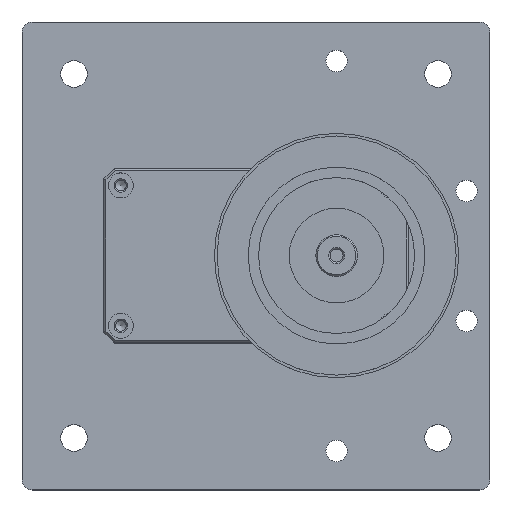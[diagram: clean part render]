
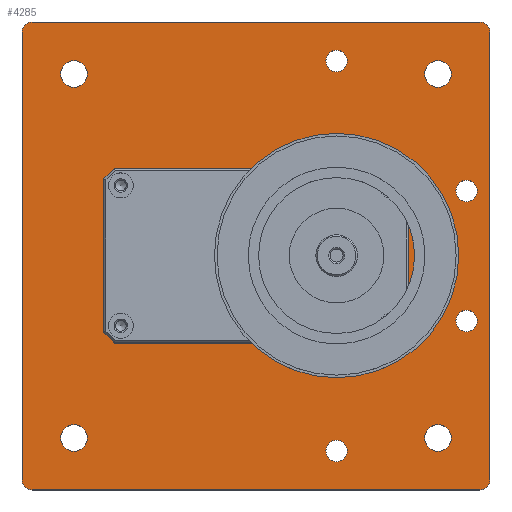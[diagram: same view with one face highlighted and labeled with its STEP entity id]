
A CAD part, top view. The second image highlights one B-rep face of the part: STEP entity #4285.
In plain terms, the highlighted planar face has unit normal (0, 0, 1) as drawn and (0, 0, -1) by its records, which use the part's own axes.
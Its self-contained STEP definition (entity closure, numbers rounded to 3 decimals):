
#108=PLANE('',#4652);
#246=LINE('',#6611,#534);
#250=LINE('',#6623,#538);
#254=LINE('',#6635,#542);
#256=LINE('',#6643,#544);
#260=LINE('',#6700,#548);
#264=LINE('',#6712,#552);
#268=LINE('',#6724,#556);
#272=LINE('',#6735,#560);
#534=VECTOR('',#5196,29.5);
#538=VECTOR('',#5208,28.);
#542=VECTOR('',#5220,29.5);
#544=VECTOR('',#5230,28.);
#548=VECTOR('',#5298,86.);
#552=VECTOR('',#5310,86.);
#556=VECTOR('',#5322,86.);
#560=VECTOR('',#5334,86.);
#838=FACE_BOUND('',#1383,.T.);
#839=FACE_BOUND('',#1384,.T.);
#840=FACE_BOUND('',#1385,.T.);
#841=FACE_BOUND('',#1386,.T.);
#842=FACE_BOUND('',#1387,.T.);
#843=FACE_BOUND('',#1388,.T.);
#844=FACE_BOUND('',#1389,.T.);
#845=FACE_BOUND('',#1390,.T.);
#846=FACE_BOUND('',#1391,.T.);
#847=FACE_BOUND('',#1392,.T.);
#848=FACE_BOUND('',#1393,.T.);
#849=FACE_BOUND('',#1394,.T.);
#850=FACE_BOUND('',#1395,.T.);
#851=FACE_BOUND('',#1396,.T.);
#1383=EDGE_LOOP('',(#3145));
#1384=EDGE_LOOP('',(#3146));
#1385=EDGE_LOOP('',(#3147));
#1386=EDGE_LOOP('',(#3148));
#1387=EDGE_LOOP('',(#3149));
#1388=EDGE_LOOP('',(#3150));
#1389=EDGE_LOOP('',(#3151));
#1390=EDGE_LOOP('',(#3152));
#1391=EDGE_LOOP('',(#3153,#3154,#3155,#3156,#3157,#3158,#3159,#3160));
#1392=EDGE_LOOP('',(#3161));
#1393=EDGE_LOOP('',(#3162));
#1394=EDGE_LOOP('',(#3163));
#1395=EDGE_LOOP('',(#3164));
#1396=EDGE_LOOP('',(#3165,#3166,#3167,#3168,#3169,#3170,#3171,#3172));
#1837=CIRCLE('',#4570,2.05);
#1839=CIRCLE('',#4573,2.05);
#1841=CIRCLE('',#4576,2.05);
#1843=CIRCLE('',#4579,2.05);
#1845=CIRCLE('',#4582,2.55);
#1847=CIRCLE('',#4585,2.55);
#1849=CIRCLE('',#4588,2.55);
#1851=CIRCLE('',#4591,2.55);
#1853=CIRCLE('',#4594,2.);
#1855=CIRCLE('',#4598,2.);
#1857=CIRCLE('',#4602,2.);
#1859=CIRCLE('',#4606,2.);
#1863=CIRCLE('',#4614,1.3);
#1867=CIRCLE('',#4621,1.3);
#1871=CIRCLE('',#4628,1.3);
#1875=CIRCLE('',#4635,1.3);
#1876=CIRCLE('',#4637,2.);
#1878=CIRCLE('',#4641,2.);
#1880=CIRCLE('',#4645,2.);
#1882=CIRCLE('',#4649,2.);
#2083=VERTEX_POINT('',#6560);
#2085=VERTEX_POINT('',#6565);
#2087=VERTEX_POINT('',#6570);
#2089=VERTEX_POINT('',#6575);
#2091=VERTEX_POINT('',#6580);
#2093=VERTEX_POINT('',#6585);
#2095=VERTEX_POINT('',#6590);
#2097=VERTEX_POINT('',#6595);
#2100=VERTEX_POINT('',#6601);
#2101=VERTEX_POINT('',#6603);
#2103=VERTEX_POINT('',#6609);
#2105=VERTEX_POINT('',#6615);
#2107=VERTEX_POINT('',#6621);
#2109=VERTEX_POINT('',#6627);
#2111=VERTEX_POINT('',#6633);
#2113=VERTEX_POINT('',#6639);
#2117=VERTEX_POINT('',#6654);
#2121=VERTEX_POINT('',#6665);
#2125=VERTEX_POINT('',#6676);
#2129=VERTEX_POINT('',#6687);
#2130=VERTEX_POINT('',#6690);
#2131=VERTEX_POINT('',#6691);
#2134=VERTEX_POINT('',#6699);
#2136=VERTEX_POINT('',#6705);
#2138=VERTEX_POINT('',#6711);
#2140=VERTEX_POINT('',#6717);
#2142=VERTEX_POINT('',#6723);
#2144=VERTEX_POINT('',#6729);
#2496=EDGE_CURVE('',#2083,#2083,#1837,.T.);
#2498=EDGE_CURVE('',#2085,#2085,#1839,.T.);
#2500=EDGE_CURVE('',#2087,#2087,#1841,.T.);
#2502=EDGE_CURVE('',#2089,#2089,#1843,.T.);
#2504=EDGE_CURVE('',#2091,#2091,#1845,.T.);
#2506=EDGE_CURVE('',#2093,#2093,#1847,.T.);
#2508=EDGE_CURVE('',#2095,#2095,#1849,.T.);
#2510=EDGE_CURVE('',#2097,#2097,#1851,.T.);
#2513=EDGE_CURVE('',#2100,#2101,#1853,.T.);
#2517=EDGE_CURVE('',#2100,#2103,#246,.T.);
#2520=EDGE_CURVE('',#2105,#2103,#1855,.T.);
#2523=EDGE_CURVE('',#2105,#2107,#250,.T.);
#2526=EDGE_CURVE('',#2109,#2107,#1857,.T.);
#2529=EDGE_CURVE('',#2109,#2111,#254,.T.);
#2532=EDGE_CURVE('',#2113,#2111,#1859,.T.);
#2533=EDGE_CURVE('',#2113,#2101,#256,.T.);
#2538=EDGE_CURVE('',#2117,#2117,#1863,.T.);
#2542=EDGE_CURVE('',#2121,#2121,#1867,.T.);
#2546=EDGE_CURVE('',#2125,#2125,#1871,.T.);
#2550=EDGE_CURVE('',#2129,#2129,#1875,.T.);
#2551=EDGE_CURVE('',#2130,#2131,#1876,.T.);
#2555=EDGE_CURVE('',#2131,#2134,#260,.T.);
#2558=EDGE_CURVE('',#2134,#2136,#1878,.T.);
#2561=EDGE_CURVE('',#2136,#2138,#264,.T.);
#2564=EDGE_CURVE('',#2138,#2140,#1880,.T.);
#2567=EDGE_CURVE('',#2140,#2142,#268,.T.);
#2570=EDGE_CURVE('',#2142,#2144,#1882,.T.);
#2573=EDGE_CURVE('',#2144,#2130,#272,.T.);
#3145=ORIENTED_EDGE('',*,*,#2496,.T.);
#3146=ORIENTED_EDGE('',*,*,#2498,.T.);
#3147=ORIENTED_EDGE('',*,*,#2500,.T.);
#3148=ORIENTED_EDGE('',*,*,#2502,.T.);
#3149=ORIENTED_EDGE('',*,*,#2504,.T.);
#3150=ORIENTED_EDGE('',*,*,#2506,.T.);
#3151=ORIENTED_EDGE('',*,*,#2508,.T.);
#3152=ORIENTED_EDGE('',*,*,#2510,.T.);
#3153=ORIENTED_EDGE('',*,*,#2533,.T.);
#3154=ORIENTED_EDGE('',*,*,#2513,.F.);
#3155=ORIENTED_EDGE('',*,*,#2517,.T.);
#3156=ORIENTED_EDGE('',*,*,#2520,.F.);
#3157=ORIENTED_EDGE('',*,*,#2523,.T.);
#3158=ORIENTED_EDGE('',*,*,#2526,.F.);
#3159=ORIENTED_EDGE('',*,*,#2529,.T.);
#3160=ORIENTED_EDGE('',*,*,#2532,.F.);
#3161=ORIENTED_EDGE('',*,*,#2538,.T.);
#3162=ORIENTED_EDGE('',*,*,#2542,.T.);
#3163=ORIENTED_EDGE('',*,*,#2546,.T.);
#3164=ORIENTED_EDGE('',*,*,#2550,.T.);
#3165=ORIENTED_EDGE('',*,*,#2573,.T.);
#3166=ORIENTED_EDGE('',*,*,#2551,.T.);
#3167=ORIENTED_EDGE('',*,*,#2555,.T.);
#3168=ORIENTED_EDGE('',*,*,#2558,.T.);
#3169=ORIENTED_EDGE('',*,*,#2561,.T.);
#3170=ORIENTED_EDGE('',*,*,#2564,.T.);
#3171=ORIENTED_EDGE('',*,*,#2567,.T.);
#3172=ORIENTED_EDGE('',*,*,#2570,.T.);
#4285=ADVANCED_FACE('',(#838,#839,#840,#841,#842,#843,#844,#845,#846,#847,
#848,#849,#850,#851),#108,.F.);
#4570=AXIS2_PLACEMENT_3D('',#6561,#5140,#5141);
#4573=AXIS2_PLACEMENT_3D('',#6566,#5146,#5147);
#4576=AXIS2_PLACEMENT_3D('',#6571,#5152,#5153);
#4579=AXIS2_PLACEMENT_3D('',#6576,#5158,#5159);
#4582=AXIS2_PLACEMENT_3D('',#6581,#5164,#5165);
#4585=AXIS2_PLACEMENT_3D('',#6586,#5170,#5171);
#4588=AXIS2_PLACEMENT_3D('',#6591,#5176,#5177);
#4591=AXIS2_PLACEMENT_3D('',#6596,#5182,#5183);
#4594=AXIS2_PLACEMENT_3D('',#6604,#5189,#5190);
#4598=AXIS2_PLACEMENT_3D('',#6617,#5202,#5203);
#4602=AXIS2_PLACEMENT_3D('',#6629,#5214,#5215);
#4606=AXIS2_PLACEMENT_3D('',#6641,#5226,#5227);
#4614=AXIS2_PLACEMENT_3D('',#6655,#5244,#5245);
#4621=AXIS2_PLACEMENT_3D('',#6666,#5258,#5259);
#4628=AXIS2_PLACEMENT_3D('',#6677,#5272,#5273);
#4635=AXIS2_PLACEMENT_3D('',#6688,#5286,#5287);
#4637=AXIS2_PLACEMENT_3D('',#6692,#5290,#5291);
#4641=AXIS2_PLACEMENT_3D('',#6706,#5303,#5304);
#4645=AXIS2_PLACEMENT_3D('',#6718,#5315,#5316);
#4649=AXIS2_PLACEMENT_3D('',#6730,#5327,#5328);
#4652=AXIS2_PLACEMENT_3D('',#6737,#5336,#5337);
#5140=DIRECTION('center_axis',(0.,0.,1.));
#5141=DIRECTION('ref_axis',(-1.,0.,0.));
#5146=DIRECTION('center_axis',(0.,0.,1.));
#5147=DIRECTION('ref_axis',(-1.,0.,0.));
#5152=DIRECTION('center_axis',(0.,0.,1.));
#5153=DIRECTION('ref_axis',(-1.,0.,0.));
#5158=DIRECTION('center_axis',(0.,0.,1.));
#5159=DIRECTION('ref_axis',(-1.,0.,0.));
#5164=DIRECTION('center_axis',(0.,0.,1.));
#5165=DIRECTION('ref_axis',(-1.,0.,0.));
#5170=DIRECTION('center_axis',(0.,0.,1.));
#5171=DIRECTION('ref_axis',(-1.,0.,0.));
#5176=DIRECTION('center_axis',(0.,0.,1.));
#5177=DIRECTION('ref_axis',(-1.,0.,0.));
#5182=DIRECTION('center_axis',(0.,0.,1.));
#5183=DIRECTION('ref_axis',(-1.,0.,0.));
#5189=DIRECTION('center_axis',(0.,0.,-1.));
#5190=DIRECTION('ref_axis',(-0.707,-0.707,0.));
#5196=DIRECTION('',(1.,0.,0.));
#5202=DIRECTION('center_axis',(0.,0.,-1.));
#5203=DIRECTION('ref_axis',(0.707,-0.707,0.));
#5208=DIRECTION('',(0.,1.,0.));
#5214=DIRECTION('center_axis',(0.,0.,-1.));
#5215=DIRECTION('ref_axis',(0.707,0.707,0.));
#5220=DIRECTION('',(-1.,0.,0.));
#5226=DIRECTION('center_axis',(0.,0.,-1.));
#5227=DIRECTION('ref_axis',(-0.707,0.707,0.));
#5230=DIRECTION('',(0.,-1.,0.));
#5244=DIRECTION('center_axis',(0.,0.,1.));
#5245=DIRECTION('ref_axis',(1.,0.,0.));
#5258=DIRECTION('center_axis',(0.,0.,1.));
#5259=DIRECTION('ref_axis',(1.,0.,0.));
#5272=DIRECTION('center_axis',(0.,0.,1.));
#5273=DIRECTION('ref_axis',(1.,0.,0.));
#5286=DIRECTION('center_axis',(0.,0.,1.));
#5287=DIRECTION('ref_axis',(1.,0.,0.));
#5290=DIRECTION('center_axis',(0.,0.,-1.));
#5291=DIRECTION('ref_axis',(-1.,0.,0.));
#5298=DIRECTION('',(0.,-1.,0.));
#5303=DIRECTION('center_axis',(0.,0.,-1.));
#5304=DIRECTION('ref_axis',(0.,1.,0.));
#5310=DIRECTION('',(-1.,0.,0.));
#5315=DIRECTION('center_axis',(0.,0.,-1.));
#5316=DIRECTION('ref_axis',(1.,0.,0.));
#5322=DIRECTION('',(0.,1.,0.));
#5327=DIRECTION('center_axis',(0.,0.,-1.));
#5328=DIRECTION('ref_axis',(0.,-1.,0.));
#5334=DIRECTION('',(1.,0.,0.));
#5336=DIRECTION('center_axis',(0.,0.,1.));
#5337=DIRECTION('ref_axis',(1.,0.,0.));
#6560=CARTESIAN_POINT('',(-14.55,-40.5,0.));
#6561=CARTESIAN_POINT('Origin',(-12.5,-40.5,0.));
#6565=CARTESIAN_POINT('',(35.45,-15.5,0.));
#6566=CARTESIAN_POINT('Origin',(37.5,-15.5,0.));
#6570=CARTESIAN_POINT('',(-39.55,-15.5,0.));
#6571=CARTESIAN_POINT('Origin',(-37.5,-15.5,0.));
#6575=CARTESIAN_POINT('',(10.45,-40.5,0.));
#6576=CARTESIAN_POINT('Origin',(12.5,-40.5,0.));
#6580=CARTESIAN_POINT('',(-37.55,35.,0.));
#6581=CARTESIAN_POINT('Origin',(-35.,35.,0.));
#6585=CARTESIAN_POINT('',(32.45,-35.,0.));
#6586=CARTESIAN_POINT('Origin',(35.,-35.,0.));
#6590=CARTESIAN_POINT('',(32.45,35.,0.));
#6591=CARTESIAN_POINT('Origin',(35.,35.,0.));
#6595=CARTESIAN_POINT('',(-37.55,-35.,0.));
#6596=CARTESIAN_POINT('Origin',(-35.,-35.,0.));
#6601=CARTESIAN_POINT('',(-14.75,-16.,0.));
#6603=CARTESIAN_POINT('',(-16.75,-14.,0.));
#6604=CARTESIAN_POINT('Origin',(-14.75,-14.,0.));
#6609=CARTESIAN_POINT('',(14.75,-16.,0.));
#6611=CARTESIAN_POINT('',(8.375,-16.,0.));
#6615=CARTESIAN_POINT('',(16.75,-14.,0.));
#6617=CARTESIAN_POINT('Origin',(14.75,-14.,0.));
#6621=CARTESIAN_POINT('',(16.75,14.,0.));
#6623=CARTESIAN_POINT('',(16.75,8.,0.));
#6627=CARTESIAN_POINT('',(14.75,16.,0.));
#6629=CARTESIAN_POINT('Origin',(14.75,14.,0.));
#6633=CARTESIAN_POINT('',(-14.75,16.,0.));
#6635=CARTESIAN_POINT('',(-8.375,16.,0.));
#6639=CARTESIAN_POINT('',(-16.75,14.,0.));
#6641=CARTESIAN_POINT('Origin',(-14.75,14.,0.));
#6643=CARTESIAN_POINT('',(-16.75,-8.,0.));
#6654=CARTESIAN_POINT('',(12.2,-26.,0.));
#6655=CARTESIAN_POINT('Origin',(13.5,-26.,0.));
#6665=CARTESIAN_POINT('',(-14.8,26.,0.));
#6666=CARTESIAN_POINT('Origin',(-13.5,26.,0.));
#6676=CARTESIAN_POINT('',(-14.8,-26.,0.));
#6677=CARTESIAN_POINT('Origin',(-13.5,-26.,0.));
#6687=CARTESIAN_POINT('',(12.2,26.,0.));
#6688=CARTESIAN_POINT('Origin',(13.5,26.,0.));
#6690=CARTESIAN_POINT('',(43.,45.,0.));
#6691=CARTESIAN_POINT('',(45.,43.,0.));
#6692=CARTESIAN_POINT('Origin',(43.,43.,0.));
#6699=CARTESIAN_POINT('',(45.,-43.,0.));
#6700=CARTESIAN_POINT('',(45.,43.,0.));
#6705=CARTESIAN_POINT('',(43.,-45.,0.));
#6706=CARTESIAN_POINT('Origin',(43.,-43.,0.));
#6711=CARTESIAN_POINT('',(-43.,-45.,0.));
#6712=CARTESIAN_POINT('',(43.,-45.,0.));
#6717=CARTESIAN_POINT('',(-45.,-43.,0.));
#6718=CARTESIAN_POINT('Origin',(-43.,-43.,0.));
#6723=CARTESIAN_POINT('',(-45.,43.,0.));
#6724=CARTESIAN_POINT('',(-45.,-43.,0.));
#6729=CARTESIAN_POINT('',(-43.,45.,0.));
#6730=CARTESIAN_POINT('Origin',(-43.,43.,0.));
#6735=CARTESIAN_POINT('',(-43.,45.,0.));
#6737=CARTESIAN_POINT('Origin',(0.,0.,
0.));
